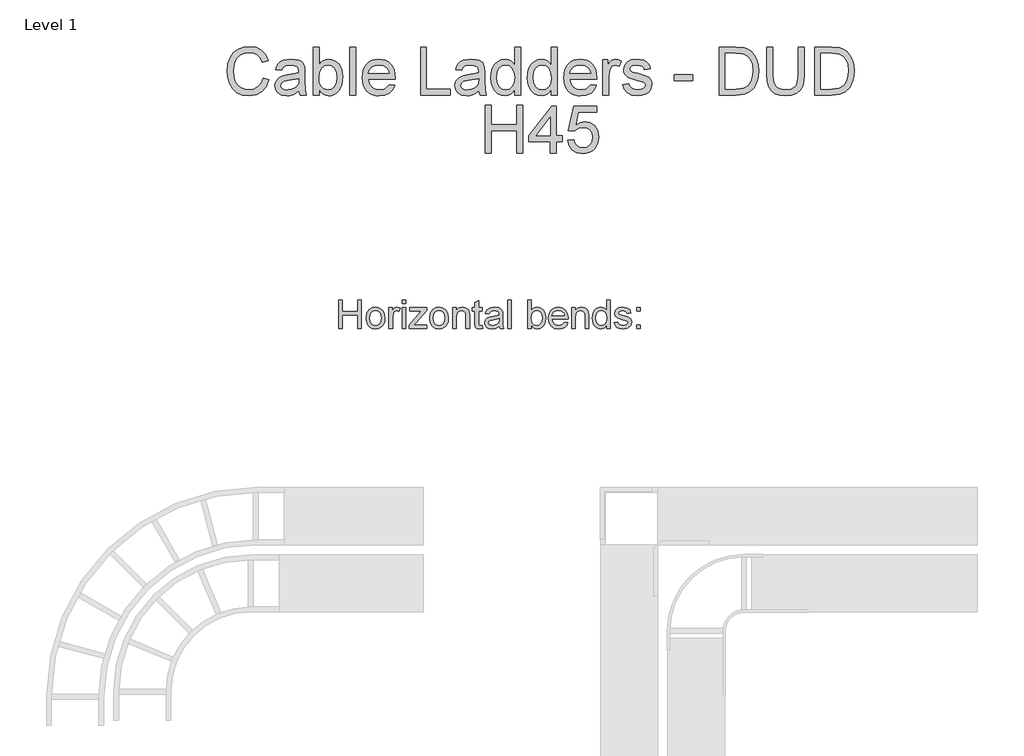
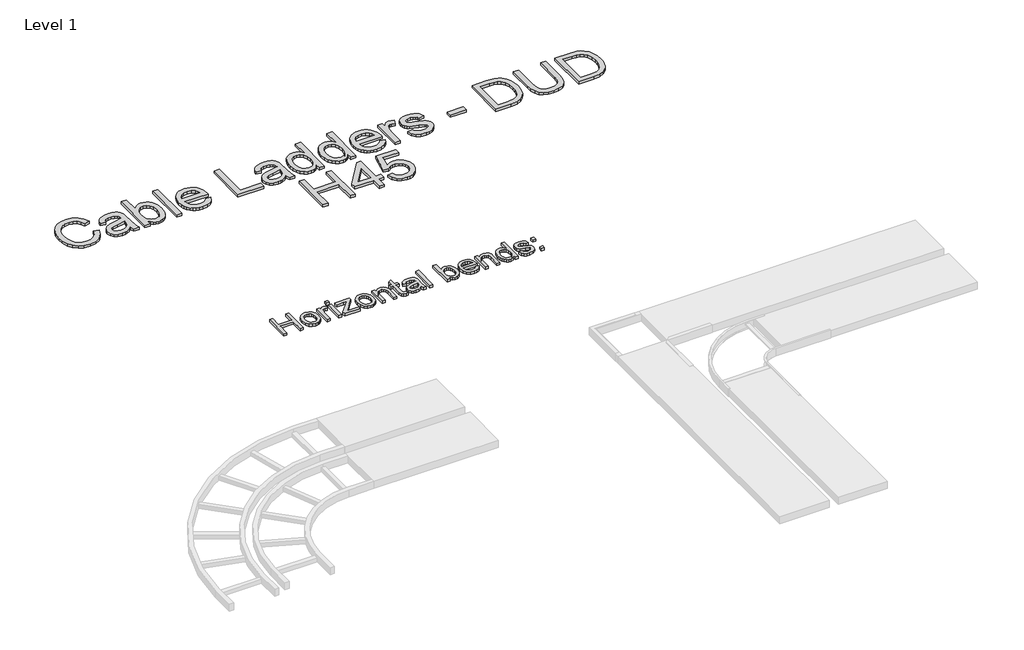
# One storey, part 52 of 106: 2 proxies.
"""IFC4 building model written with IfcOpenShell, lengths in millimetres."""

from ifc_helpers import new_model, si_unit, origin, origin_with_axes, place, context, project, spatial, polyline, outline, extrude, element, save

model = new_model("IFC4")

# Units and contexts
model_context = context("Model", 3, world=origin())
ifc_project = project(units=[si_unit("LENGTHUNIT", "METRE", prefix="MILLI")], contexts=[model_context])

# Site, building, storey
site = spatial("IfcSite", under=ifc_project)
building = spatial("IfcBuilding", under=site)
storey = spatial("IfcBuildingStorey", under=building, Name="Level 1", Elevation=0.0)

# Proxies
placement = place(None, origin())
element("IfcBuildingElementProxy", 1, Name="150mm Arial 2", ObjectType="150mm Arial 2", at=placement, inside=storey, context=model_context, shape_type="SweptSolid", body=[
    extrude(outline(polyline([(29365.8833156, 38674.2713912), (29365.8833156, 38824.9558564), (29384.7188737, 38824.9558564), (29384.7188737, 38763.7402924), (29464.7699959, 38763.7402924), (29464.7699959, 38824.9558564), (29483.605554, 38824.9558564), (29483.605554, 38674.2713912), (29464.7699959, 38674.2713912), (29464.7699959, 38744.9047343), (29384.7188737, 38744.9047343), (29384.7188737, 38674.2713912), (29365.8833156, 38674.2713912)])), origin_with_axes(), (0.0, 0.0, 1.0), 15.0),
    extrude(outline(polyline([(29509.5044465, 38729.6008433), (29513.5787396, 38756.281485), (29525.8016189, 38775.0342697), (29540.9031748, 38784.2221225), (29558.9845748, 38787.2847401), (29578.7720277, 38783.5553364), (29594.5771579, 38772.3671252), (29604.9376346, 38754.6030234), (29608.3911268, 38731.1459476), (29606.8644165, 38712.1172514), (29602.2842857, 38697.6318979), (29594.7840915, 38686.7839775), (29584.4971912, 38678.667581), (29572.2789104, 38673.6046051), (29558.9845748, 38671.9169464), (29538.9579987, 38675.6325546), (29523.1712626, 38686.779379), (29512.9211505, 38704.9159614), (29509.5044465, 38729.6008433)]), holes=[polyline([(29528.3400046, 38729.6376315), (29530.5197055, 38712.5908995), (29537.0588079, 38700.4461951), (29546.8996513, 38693.1759272), (29558.9845748, 38690.7525046), (29571.0143161, 38693.1897228), (29580.8367654, 38700.5013774), (29587.3758678, 38712.8070302), (29589.5555686, 38730.2262427), (29587.3620722, 38746.7763339), (29580.7815831, 38758.7554914), (29570.9453382, 38766.0257593), (29558.9845748, 38768.449182), (29546.8996513, 38766.0349564), (29537.0588079, 38758.7922796), (29530.5197055, 38746.6751664), (29528.3400046, 38729.6376315)])]), origin_with_axes(), (0.0, 0.0, 1.0), 15.0),
    extrude(outline(polyline([(29629.5811297, 38674.2713912), (29629.5811297, 38784.9302953), (29646.0622431, 38784.9302953), (29646.0622431, 38768.5595466), (29657.7608906, 38783.6427084), (29669.5331144, 38787.2847401), (29688.4422489, 38781.4722046), (29682.1514668, 38764.586421), (29668.907715, 38768.449182), (29658.2575312, 38764.7335738), (29651.4701084, 38754.4328779), (29648.4166879, 38732.4335346), (29648.4166879, 38674.2713912), (29629.5811297, 38674.2713912)])), origin_with_axes(), (0.0, 0.0, 1.0), 15.0),
    extrude(outline(polyline([(29700.2144728, 38806.1202983), (29700.2144728, 38824.9558564), (29719.0500309, 38824.9558564), (29719.0500309, 38806.1202983), (29700.2144728, 38806.1202983)])), origin_with_axes(), (0.0, 0.0, 1.0), 15.0),
    extrude(outline(polyline([(29700.2144728, 38674.2713912), (29700.2144728, 38784.9302953), (29719.0500309, 38784.9302953), (29719.0500309, 38674.2713912), (29700.2144728, 38674.2713912)])), origin_with_axes(), (0.0, 0.0, 1.0), 15.0),
    extrude(outline(polyline([(29735.5311443, 38674.2713912), (29735.5311443, 38692.0033034), (29800.5358929, 38766.0947372), (29781.2956645, 38766.0947372), (29740.2400339, 38766.0947372), (29740.2400339, 38784.9302953), (29827.3544903, 38784.9302953), (29827.3544903, 38768.9274285), (29769.7073817, 38703.186916), (29760.8782138, 38693.1069493), (29782.6568279, 38693.1069493), (29829.7089351, 38693.1069493), (29829.7089351, 38674.2713912), (29735.5311443, 38674.2713912)])), origin_with_axes(), (0.0, 0.0, 1.0), 15.0),
    extrude(outline(polyline([(29843.8356037, 38729.6008433), (29847.9098968, 38756.281485), (29860.1327761, 38775.0342697), (29875.234332, 38784.2221225), (29893.3157321, 38787.2847401), (29913.1031849, 38783.5553364), (29928.9083151, 38772.3671252), (29939.2687918, 38754.6030234), (29942.722284, 38731.1459476), (29941.1955737, 38712.1172514), (29936.6154429, 38697.6318979), (29929.1152487, 38686.7839775), (29918.8283484, 38678.667581), (29906.6100677, 38673.6046051), (29893.3157321, 38671.9169464), (29873.2891559, 38675.6325546), (29857.5024198, 38686.779379), (29847.2523077, 38704.9159614), (29843.8356037, 38729.6008433)]), holes=[polyline([(29862.6711619, 38729.6376315), (29864.8508627, 38712.5908995), (29871.3899651, 38700.4461951), (29881.2308085, 38693.1759272), (29893.3157321, 38690.7525046), (29905.3454733, 38693.1897228), (29915.1679226, 38700.5013774), (29921.707025, 38712.8070302), (29923.8867259, 38730.2262427), (29921.6932295, 38746.7763339), (29915.1127403, 38758.7554914), (29905.2764954, 38766.0257593), (29893.3157321, 38768.449182), (29881.2308085, 38766.0349564), (29871.3899651, 38758.7922796), (29864.8508627, 38746.6751664), (29862.6711619, 38729.6376315)])]), origin_with_axes(), (0.0, 0.0, 1.0), 15.0),
    extrude(outline(polyline([(29963.9122869, 38674.2713912), (29963.9122869, 38784.9302953), (29982.7478451, 38784.9302953), (29982.7478451, 38769.4792515), (29997.1504252, 38782.833368), (30016.8137178, 38787.2847401), (30034.6008123, 38783.6978907), (30046.7409182, 38774.2801116), (30052.3879068, 38760.4293545), (30053.3811882, 38742.2191957), (30053.3811882, 38674.2713912), (30034.54563, 38674.2713912), (30034.54563, 38739.6808099), (30032.3751262, 38756.3458643), (30024.7047866, 38765.1566381), (30011.7737345, 38768.449182), (30000.7418732, 38766.6005749), (29991.3378897, 38761.0547538), (29984.8953562, 38750.3401907), (29982.7478451, 38732.9853576), (29982.7478451, 38674.2713912), (29963.9122869, 38674.2713912)])), origin_with_axes(), (0.0, 0.0, 1.0), 15.0),
    extrude(outline(polyline([(30119.3056417, 38689.9799524), (30121.6600865, 38673.7195682), (30107.5702061, 38671.9169464), (30091.7880685, 38675.0439434), (30083.9153938, 38683.2477119), (30081.6345254, 38704.6216558), (30081.6345254, 38766.0947372), (30067.5078568, 38766.0947372), (30067.5078568, 38784.9302953), (30081.6345254, 38784.9302953), (30081.6345254, 38811.8224692), (30100.4700835, 38822.8957172), (30100.4700835, 38784.9302953), (30119.3056417, 38784.9302953), (30119.3056417, 38766.0947372), (30100.4700835, 38766.0947372), (30100.4700835, 38705.1734788), (30101.4633649, 38695.4613941), (30104.6823324, 38692.0216975), (30111.1018732, 38690.7525046), (30119.3056417, 38689.9799524)])), origin_with_axes(), (0.0, 0.0, 1.0), 15.0),
    extrude(outline(polyline([(30208.7745429, 38688.3980598), (30190.5092019, 38675.6325546), (30170.3308744, 38671.9169464), (30154.5901236, 38674.1518295), (30142.9788481, 38680.8564789), (30135.8189448, 38691.0376131), (30133.4323103, 38703.7019508), (30137.0375539, 38718.6011716), (30146.5105152, 38729.4169023), (30159.6990848, 38735.5973198), (30175.9962572, 38738.4300111), (30208.6641783, 38744.9047343), (30208.7745429, 38749.098589), (30207.4777589, 38757.5046926), (30203.5874068, 38763.0045284), (30194.8869976, 38767.0880186), (30182.7652859, 38768.449182), (30163.7089985, 38764.8255443), (30154.6223132, 38751.9680686), (30135.7867551, 38754.3225133), (30143.9353413, 38772.7166131), (30160.3428783, 38783.4955556), (30185.193307, 38787.2847401), (30208.0203848, 38783.9370139), (30220.9146488, 38775.5309104), (30226.6903961, 38762.747011), (30227.6101011, 38746.2658976), (30227.6101011, 38722.8318146), (30228.5665943, 38690.1087111), (30232.3189906, 38674.2713912), (30213.4834325, 38674.2713912), (30208.7745429, 38688.3980598)]), holes=[polyline([(30208.7745429, 38726.0691761), (30178.3874901, 38720.2934288), (30162.1822882, 38717.2400082), (30154.8430424, 38712.2736013), (30152.2678685, 38705.026326), (30157.8780689, 38694.8359947), (30174.3407882, 38690.7525046), (30193.3970755, 38695.259059), (30205.6843342, 38706.1667602), (30208.6641783, 38720.7348872), (30208.7745429, 38726.0691761)])]), origin_with_axes(), (0.0, 0.0, 1.0), 15.0),
    extrude(outline(polyline([(30253.5089935, 38674.2713912), (30253.5089935, 38824.9558564), (30272.3445517, 38824.9558564), (30272.3445517, 38674.2713912), (30253.5089935, 38674.2713912)])), origin_with_axes(), (0.0, 0.0, 1.0), 15.0),
    extrude(outline(polyline([(30378.2945663, 38674.2713912), (30359.4590082, 38674.2713912), (30359.4590082, 38824.9558564), (30378.2945663, 38824.9558564), (30378.2945663, 38769.0745813), (30391.4831358, 38782.7322004), (30407.8722787, 38787.2847401), (30426.7446251, 38783.1828559), (30441.3863285, 38771.6497553), (30450.3810433, 38753.715508), (30453.6367989, 38731.2563122), (30450.2660801, 38706.1115779), (30440.1539238, 38687.4047784), (30425.3144838, 38675.7889044), (30407.7619141, 38671.9169464), (30391.0140863, 38676.9109445), (30378.2945663, 38691.8929388), (30378.2945663, 38674.2713912)]), holes=[polyline([(30378.2945663, 38730.3733955), (30379.5821533, 38714.6648343), (30383.4449142, 38704.0330446), (30393.3133488, 38694.0726396), (30406.1432333, 38690.7525046), (30417.0141463, 38693.1989198), (30426.3031667, 38700.5381656), (30432.6767222, 38712.7242567), (30434.8012408, 38729.7112079), (30432.7640942, 38746.9464793), (30426.6526546, 38758.9946147), (30417.6533413, 38766.0855401), (30406.9525737, 38768.449182), (30396.0816608, 38766.0027667), (30386.7926404, 38758.6635209), (30380.4190848, 38746.698159), (30378.2945663, 38730.3733955)])]), origin_with_axes(), (0.0, 0.0, 1.0), 15.0),
    extrude(outline(polyline([(30552.30275, 38707.233618), (30570.7704262, 38704.8791732), (30564.1163606, 38690.9640367), (30553.4983665, 38680.5621733), (30539.1555672, 38674.0782531), (30521.327086, 38671.9169464), (30499.2265752, 38675.6463501), (30482.2212299, 38686.8345613), (30471.3779081, 38704.755013), (30467.7634675, 38728.6811383), (30471.4146963, 38753.4120054), (30482.3683827, 38771.9072727), (30499.1438017, 38783.4403733), (30520.2602282, 38787.2847401), (30540.7190657, 38783.4495703), (30557.0668219, 38771.9440609), (30567.7859835, 38753.4855818), (30571.3590374, 38728.7915029), (30571.2486728, 38723.7147313), (30486.5990257, 38723.7147313), (30489.8593799, 38709.6156539), (30497.4331504, 38699.2505787), (30508.3638442, 38692.8770231), (30521.694968, 38690.7525046), (30540.1626442, 38694.6888419), (30552.30275, 38707.233618)]), holes=[polyline([(30486.5990257, 38742.5502895), (30552.5234792, 38742.5502895), (30549.9758964, 38752.5014975), (30544.9818983, 38759.6200141), (30534.0006208, 38766.24189), (30520.1866518, 38768.449182), (30507.4901245, 38766.6879469), (30496.991692, 38761.4042417), (30489.693833, 38753.1682836), (30486.5990257, 38742.5502895)])]), origin_with_axes(), (0.0, 0.0, 1.0), 15.0),
    extrude(outline(polyline([(30590.1945955, 38674.2713912), (30590.1945955, 38784.9302953), (30609.0301537, 38784.9302953), (30609.0301537, 38769.4792515), (30623.4327338, 38782.833368), (30643.0960264, 38787.2847401), (30660.8831209, 38783.6978907), (30673.0232267, 38774.2801116), (30678.6702154, 38760.4293545), (30679.6634968, 38742.2191957), (30679.6634968, 38674.2713912), (30660.8279386, 38674.2713912), (30660.8279386, 38739.6808099), (30658.6574348, 38756.3458643), (30650.9870952, 38765.1566381), (30638.0560431, 38768.449182), (30627.0241818, 38766.6005749), (30617.6201983, 38761.0547538), (30611.1776648, 38750.3401907), (30609.0301537, 38732.9853576), (30609.0301537, 38674.2713912), (30590.1945955, 38674.2713912)])), origin_with_axes(), (0.0, 0.0, 1.0), 15.0),
    extrude(outline(polyline([(30773.8412875, 38674.2713912), (30773.8412875, 38692.0400916), (30761.3792849, 38676.9477327), (30744.1532105, 38671.9169464), (30731.9763165, 38673.7379623), (30720.829492, 38679.2010099), (30711.3933188, 38687.9244117), (30704.3483786, 38699.5264902), (30699.9613858, 38713.5381956), (30698.4990549, 38729.4904787), (30703.8885261, 38759.4728613), (30710.6207666, 38771.3646468), (30720.0385457, 38780.1110412), (30731.429092, 38785.4913154), (30744.0796341, 38787.2847401), (30761.4436643, 38782.1527863), (30773.8412875, 38768.8170639), (30773.8412875, 38824.9558564), (30792.6768457, 38824.9558564), (30792.6768457, 38674.2713912), (30773.8412875, 38674.2713912)]), holes=[polyline([(30717.3346131, 38729.5640551), (30719.4591316, 38712.5265202), (30725.8326871, 38700.4094069), (30735.0941164, 38693.1667302), (30745.8822559, 38690.7525046), (30756.6657969, 38693.0563656), (30765.6927013, 38699.9679485), (30771.804141, 38711.6160122), (30773.8412875, 38728.1293153), (30771.7673528, 38746.1831242), (30765.5455485, 38758.7003091), (30756.2887178, 38766.0119637), (30745.1097037, 38768.449182), (30734.2111996, 38766.1085328), (30725.2808642, 38759.0865852), (30719.3211758, 38747.0246543), (30717.3346131, 38729.5640551)])]), origin_with_axes(), (0.0, 0.0, 1.0), 15.0),
    extrude(outline(polyline([(30813.8668486, 38707.233618), (30832.7024067, 38709.5880627), (30835.6730539, 38701.531447), (30841.42121, 38695.6085469), (30861.3972024, 38690.7525046), (30880.6006425, 38695.2038767), (30886.8546364, 38705.6517254), (30885.2819409, 38710.4525854), (30880.5638543, 38714.1130113), (30861.1764732, 38719.4840884), (30832.8127713, 38728.6995324), (30820.4335422, 38739.4600807), (30816.2212934, 38754.6536071), (30819.6058077, 38768.6883052), (30828.8396458, 38779.4120654), (30840.8142047, 38784.9854776), (30857.0194066, 38787.2847401), (30879.9384549, 38783.5875261), (30894.5065819, 38773.5811358), (30900.9813051, 38756.6769581), (30882.1457469, 38754.3225133), (30875.0640185, 38764.7151797), (30858.4909346, 38768.449182), (30840.4647168, 38764.8807266), (30835.0568515, 38756.5665935), (30837.3009317, 38751.0851518), (30844.3274778, 38746.9280852), (30860.5510738, 38742.9181715), (30888.1974057, 38734.0522154), (30901.0364873, 38724.0090369), (30905.6901946, 38707.6382881), (30900.227147, 38689.6120704), (30884.4634035, 38676.5338655), (30861.139685, 38671.9169464), (30842.147777, 38674.1426325), (30828.2878228, 38680.8196907), (30819.0355906, 38691.8745447), (30813.8668486, 38707.233618)])), origin_with_axes(), (0.0, 0.0, 1.0), 15.0),
    extrude(outline(polyline([(30931.589087, 38766.0947372), (30931.589087, 38784.9302953), (30950.4246452, 38784.9302953), (30950.4246452, 38766.0947372), (30931.589087, 38766.0947372)])), origin_with_axes(), (0.0, 0.0, 1.0), 15.0),
    extrude(outline(polyline([(30931.589087, 38674.2713912), (30931.589087, 38693.1069493), (30950.4246452, 38693.1069493), (30950.4246452, 38674.2713912), (30931.589087, 38674.2713912)])), origin_with_axes(), (0.0, 0.0, 1.0), 15.0),
])
element("IfcBuildingElementProxy", 2, Name="250mm Arial 3", ObjectType="250mm Arial 3", at=placement, inside=storey, context=model_context, shape_type="SweptSolid", body=[
    extrude(outline(polyline([(28967.6684959, 39992.4106539), (28999.0610929, 39984.31725), (28984.5757393, 39947.7359841), (28961.8436977, 39921.01089), (28931.9839424, 39904.6631338), (28896.1154479, 39899.2138818), (28859.7027946, 39903.3372258), (28830.7857369, 39915.7072579), (28808.6208467, 39935.8947824), (28792.4646957, 39963.4706036), (28782.6008597, 39995.8902044), (28779.3129144, 40030.6090677), (28783.0300554, 40067.2286547), (28794.1814784, 40098.8511778), (28812.1847035, 40124.472626), (28836.457251, 40143.0889877), (28865.2440171, 40154.4243517), (28896.7898982, 40158.2028064), (28931.2098574, 40153.3130415), (28959.6670625, 40138.643747), (28981.2724656, 40115.0992993), (28995.1370182, 40083.584075), (28963.7444213, 40076.1038078), (28952.8612456, 40098.9967978), (28937.9926817, 40114.7007605), (28918.9547884, 40123.7828472), (28895.5636249, 40126.8102095), (28868.6009403, 40123.4532863), (28846.4513785, 40113.3825166), (28829.6437699, 40097.6555613), (28818.7069447, 40077.3300811), (28812.7058697, 40054.3527848), (28810.7055113, 40030.6703814), (28813.0737517, 40001.6690174), (28820.1784727, 39976.5917281), (28832.2879217, 39956.3965394), (28849.670346, 39942.0414774), (28870.5093282, 39933.4652284), (28892.9884509, 39930.6064787), (28919.1923789, 39934.4998965), (28941.0277081, 39946.1801498), (28957.51342, 39965.5246114), (28967.6684959, 39992.4106539)])), origin_with_axes(), (0.0, 0.0, 1.0), 15.0),
    extrude(outline(polyline([(29156.0240775, 39926.6824041), (29141.025222, 39913.8218627), (29125.5818424, 39905.406562), (29109.3413851, 39900.7620518), (29091.9512966, 39899.2138818), (29065.7167119, 39902.938687), (29046.3645861, 39914.1131026), (29034.4314139, 39931.0816596), (29030.4536898, 39952.1888891), (29031.9558746, 39965.2027147), (29036.462429, 39977.0209238), (29052.250698, 39995.0471415), (29074.2316472, 40005.3478374), (29101.3936012, 40010.0689897), (29155.8401365, 40020.8601949), (29156.0240775, 40027.8499528), (29153.8627708, 40041.8601254), (29147.3788506, 40051.0265185), (29132.8781686, 40057.8323354), (29112.6753157, 40060.100941), (29093.9746476, 40058.591092), (29080.9148368, 40054.0615449), (29072.0090268, 40045.6845653), (29065.7703613, 40032.6324187), (29034.3777644, 40036.5564933), (29039.8270165, 40053.7243198), (29047.9587414, 40067.2133262), (29059.5316958, 40077.5293505), (29075.3046364, 40085.1782303), (29094.5954485, 40089.914711), (29116.7220177, 40091.4935379), (29137.9442103, 40090.098652), (29154.7671473, 40085.9139943), (29167.4514119, 40079.6216794), (29176.2575872, 40071.9038217), (29185.8838327, 40050.5973228), (29187.4166744, 40023.1288005), (29187.4166744, 39984.0719953), (29189.0108297, 39929.5334895), (29195.2648236, 39903.1379564), (29163.8722267, 39903.1379564), (29156.0240775, 39926.6824041)]), holes=[polyline([(29156.0240775, 39989.4675979), (29105.3789895, 39979.8413524), (29078.3703197, 39974.7523181), (29066.1382433, 39966.4749732), (29061.8462867, 39954.3961811), (29064.1838702, 39945.0611754), (29071.1966208, 39937.4122956), (29082.7312541, 39932.3079329), (29098.6344862, 39930.6064787), (29115.4957443, 39932.4842097), (29130.3949651, 39938.1174028), (29142.4737573, 39946.4177403), (29150.8737295, 39956.2969047), (29154.5985347, 39966.4749732), (29155.8401365, 39980.5771164), (29156.0240775, 39989.4675979)])]), origin_with_axes(), (0.0, 0.0, 1.0), 15.0),
    extrude(outline(polyline([(29261.9740921, 39903.1379564), (29230.5814952, 39903.1379564), (29230.5814952, 40154.2787318), (29261.9740921, 40154.2787318), (29261.9740921, 40061.1432733), (29272.2977806, 40074.4215141), (29283.9550413, 40083.9059718), (29296.9458743, 40089.5966464), (29311.2702794, 40091.4935379), (29327.4417588, 40089.7844195), (29342.72419, 40084.6570642), (29356.2438533, 40076.4333687), (29367.127029, 40065.4352299), (29382.1182203, 40035.5448178), (29387.5444798, 39998.1128248), (29381.9266151, 39956.2049342), (29374.9042843, 39939.2746982), (29365.0730212, 39925.0269351), (29353.2720566, 39913.7337243), (29340.3406213, 39905.6671451), (29326.2787152, 39900.8271976), (29311.0863384, 39899.2138818), (29296.2905844, 39901.2947143), (29283.1732921, 39907.5372119), (29271.7344613, 39917.9413746), (29261.9740921, 39932.5072023), (29261.9740921, 39903.1379564)]), holes=[polyline([(29261.9740921, 39996.6412968), (29264.1200704, 39970.4603615), (29270.5580053, 39952.7407121), (29287.0053962, 39936.140037), (29308.3885371, 39930.6064787), (29326.5067254, 39934.6838375), (29341.988426, 39946.9159138), (29352.6110186, 39967.2260656), (29356.1518828, 39995.5376509), (29352.7566386, 40024.2631033), (29342.5709059, 40044.3433289), (29327.5720503, 40056.161538), (29309.7374378, 40060.100941), (29291.6192495, 40056.0235822), (29276.1375489, 40043.7915059), (29265.5149563, 40023.8492361), (29261.9740921, 39996.6412968)])]), origin_with_axes(), (0.0, 0.0, 1.0), 15.0),
    extrude(outline(polyline([(29422.8611513, 39903.1379564), (29422.8611513, 40154.2787318), (29454.2537482, 40154.2787318), (29454.2537482, 39903.1379564), (29422.8611513, 39903.1379564)])), origin_with_axes(), (0.0, 0.0, 1.0), 15.0),
    extrude(outline(polyline([(29630.4692239, 39958.075001), (29661.2486842, 39954.1509264), (29650.1585749, 39930.9590323), (29632.4619181, 39913.6225933), (29608.5572526, 39902.8160597), (29578.8431173, 39899.2138818), (29559.364532, 39900.7678), (29542.0089325, 39905.4295547), (29526.7763186, 39913.1991458), (29513.6666905, 39924.0765733), (29503.124572, 39937.759101), (29495.5944874, 39953.9439928), (29491.0764367, 39972.6312485), (29489.5704198, 39993.8208682), (29491.0917651, 40015.7290074), (29495.6558011, 40035.0389801), (29503.2625278, 40051.7507861), (29513.9119451, 40065.8644256), (29526.9870844, 40077.0771622), (29541.8709767, 40085.0862598), (29558.5636223, 40089.8917184), (29577.065021, 40091.4935379), (29594.9705274, 40089.8955505), (29611.1630834, 40085.1015883), (29625.6426888, 40077.1116512), (29638.4093436, 40065.9257393), (29648.8307508, 40051.8427566), (29656.274613, 40035.1616074), (29660.7409304, 40015.8822916), (29662.2297028, 39994.0048092), (29662.0457618, 39985.5435233), (29520.9630167, 39985.5435233), (29526.3969403, 39962.0450609), (29539.0198913, 39944.7699355), (29557.2377143, 39934.1473429), (29579.4562539, 39930.6064787), (29596.1642279, 39932.2466193), (29610.2357142, 39937.1670409), (29621.6707129, 39945.6743121), (29630.4692239, 39958.075001)]), holes=[polyline([(29520.9630167, 40016.9361202), (29630.8371059, 40016.9361202), (29626.5911346, 40033.5214669), (29618.2678044, 40045.3856612), (29599.9656752, 40056.4221211), (29576.9423936, 40060.100941), (29555.7815147, 40057.1655493), (29538.2841273, 40048.359374), (29526.1210288, 40034.632777), (29520.9630167, 40016.9361202)])]), origin_with_axes(), (0.0, 0.0, 1.0), 15.0),
    extrude(outline(polyline([(29795.6482398, 39903.1379564), (29795.6482398, 40154.2787318), (29827.0408367, 40154.2787318), (29827.0408367, 39934.5305533), (29952.6112244, 39934.5305533), (29952.6112244, 39903.1379564), (29795.6482398, 39903.1379564)])), origin_with_axes(), (0.0, 0.0, 1.0), 15.0),
    extrude(outline(polyline([(30101.7260597, 39926.6824041), (30086.7272042, 39913.8218627), (30071.2838246, 39905.406562), (30055.0433674, 39900.7620518), (30037.6532789, 39899.2138818), (30011.4186941, 39902.938687), (29992.0665683, 39914.1131026), (29980.1333961, 39931.0816596), (29976.1556721, 39952.1888891), (29977.6578569, 39965.2027147), (29982.1644113, 39977.0209238), (29997.9526803, 39995.0471415), (30019.9336295, 40005.3478374), (30047.0955835, 40010.0689897), (30101.5421187, 40020.8601949), (30101.7260597, 40027.8499528), (30099.564753, 40041.8601254), (30093.0808329, 40051.0265185), (30078.5801509, 40057.8323354), (30058.377298, 40060.100941), (30039.6766299, 40058.591092), (30026.6168191, 40054.0615449), (30017.7110091, 40045.6845653), (30011.4723436, 40032.6324187), (29980.0797467, 40036.5564933), (29985.5289987, 40053.7243198), (29993.6607237, 40067.2133262), (30005.2336781, 40077.5293505), (30021.0066186, 40085.1782303), (30040.2974308, 40089.914711), (30062.4239999, 40091.4935379), (30083.6461925, 40090.098652), (30100.4691296, 40085.9139943), (30113.1533942, 40079.6216794), (30121.9595695, 40071.9038217), (30131.585815, 40050.5973228), (30133.1186567, 40023.1288005), (30133.1186567, 39984.0719953), (30134.712812, 39929.5334895), (30140.9668059, 39903.1379564), (30109.574209, 39903.1379564), (30101.7260597, 39926.6824041)]), holes=[polyline([(30101.7260597, 39989.4675979), (30051.0809717, 39979.8413524), (30024.0723019, 39974.7523181), (30011.8402256, 39966.4749732), (30007.548269, 39954.3961811), (30009.8858525, 39945.0611754), (30016.898603, 39937.4122956), (30028.4332364, 39932.3079329), (30044.3364685, 39930.6064787), (30061.1977266, 39932.4842097), (30076.0969474, 39938.1174028), (30088.1757396, 39946.4177403), (30096.5757118, 39956.2969047), (30100.300517, 39966.4749732), (30101.5421187, 39980.5771164), (30101.7260597, 39989.4675979)])]), origin_with_axes(), (0.0, 0.0, 1.0), 15.0),
    extrude(outline(polyline([(30290.0816413, 39903.1379564), (30290.0816413, 39932.752457), (30280.6891541, 39918.0793303), (30269.311637, 39907.5985256), (30255.9490899, 39901.3100427), (30240.6015129, 39899.2138818), (30220.3066895, 39902.2489082), (30201.7286488, 39911.3539876), (30186.0016935, 39925.8929906), (30174.2601265, 39945.229788), (30166.9484718, 39968.5826305), (30164.5112536, 39995.1697689), (30166.7568666, 40021.4273463), (30173.4937056, 40045.1404065), (30184.7141065, 40064.960049), (30200.4104049, 40079.5373731), (30219.3946487, 40088.5044967), (30240.4788856, 40091.4935379), (30255.8379589, 40089.3552238), (30269.4189359, 40082.9402815), (30280.9305766, 40073.1071024), (30290.0816413, 40060.7140777), (30290.0816413, 40154.2787318), (30321.4742382, 40154.2787318), (30321.4742382, 39903.1379564), (30290.0816413, 39903.1379564)]), holes=[polyline([(30195.9038505, 39995.2923962), (30199.4447147, 39966.8965047), (30210.0673073, 39946.701316), (30225.5030227, 39934.630188), (30243.4832552, 39930.6064787), (30261.4558235, 39934.446247), (30276.5006643, 39945.965552), (30286.686397, 39965.3789915), (30290.0816413, 39992.9011632), (30286.6250834, 40022.9908447), (30276.2554096, 40043.8528196), (30260.8273584, 40056.0389106), (30242.1956682, 40060.100941), (30224.0314947, 40056.199859), (30209.1476023, 40044.496613), (30199.2147885, 40024.3933948), (30195.9038505, 39995.2923962)])]), origin_with_axes(), (0.0, 0.0, 1.0), 15.0),
    extrude(outline(polyline([(30482.3612974, 39903.1379564), (30482.3612974, 39932.752457), (30472.9688102, 39918.0793303), (30461.5912931, 39907.5985256), (30448.2287461, 39901.3100427), (30432.8811691, 39899.2138818), (30412.5863457, 39902.2489082), (30394.0083049, 39911.3539876), (30378.2813496, 39925.8929906), (30366.5397826, 39945.229788), (30359.2281279, 39968.5826305), (30356.7909097, 39995.1697689), (30359.0365227, 40021.4273463), (30365.7733618, 40045.1404065), (30376.9937626, 40064.960049), (30392.6900611, 40079.5373731), (30411.6743049, 40088.5044967), (30432.7585417, 40091.4935379), (30448.117615, 40089.3552238), (30461.698592, 40082.9402815), (30473.2102328, 40073.1071024), (30482.3612974, 40060.7140777), (30482.3612974, 40154.2787318), (30513.7538943, 40154.2787318), (30513.7538943, 39903.1379564), (30482.3612974, 39903.1379564)]), holes=[polyline([(30388.1835067, 39995.2923962), (30391.7243709, 39966.8965047), (30402.3469635, 39946.701316), (30417.7826788, 39934.630188), (30435.7629114, 39930.6064787), (30453.7354797, 39934.446247), (30468.7803204, 39945.965552), (30478.9660532, 39965.3789915), (30482.3612974, 39992.9011632), (30478.9047395, 40022.9908447), (30468.5350658, 40043.8528196), (30453.1070146, 40056.0389106), (30434.4753244, 40060.100941), (30416.3111509, 40056.199859), (30401.4272585, 40044.496613), (30391.4944446, 40024.3933948), (30388.1835067, 39995.2923962)])]), origin_with_axes(), (0.0, 0.0, 1.0), 15.0),
    extrude(outline(polyline([(30689.96937, 39958.075001), (30720.7488303, 39954.1509264), (30709.658721, 39930.9590323), (30691.9620642, 39913.6225933), (30668.0573987, 39902.8160597), (30638.3432634, 39899.2138818), (30618.8646781, 39900.7678), (30601.5090786, 39905.4295547), (30586.2764647, 39913.1991458), (30573.1668366, 39924.0765733), (30562.6247181, 39937.759101), (30555.0946335, 39953.9439928), (30550.5765828, 39972.6312485), (30549.0705659, 39993.8208682), (30550.5919112, 40015.7290074), (30555.1559472, 40035.0389801), (30562.7626739, 40051.7507861), (30573.4120912, 40065.8644256), (30586.4872305, 40077.0771622), (30601.3711229, 40085.0862598), (30618.0637684, 40089.8917184), (30636.5651671, 40091.4935379), (30654.4706735, 40089.8955505), (30670.6632295, 40085.1015883), (30685.1428349, 40077.1116512), (30697.9094898, 40065.9257393), (30708.3308969, 40051.8427566), (30715.7747591, 40035.1616074), (30720.2410765, 40015.8822916), (30721.7298489, 39994.0048092), (30721.5459079, 39985.5435233), (30580.4631628, 39985.5435233), (30585.8970864, 39962.0450609), (30598.5200374, 39944.7699355), (30616.7378604, 39934.1473429), (30638.9564, 39930.6064787), (30655.664374, 39932.2466193), (30669.7358603, 39937.1670409), (30681.170859, 39945.6743121), (30689.96937, 39958.075001)]), holes=[polyline([(30580.4631628, 40016.9361202), (30690.337252, 40016.9361202), (30686.0912807, 40033.5214669), (30677.7679505, 40045.3856612), (30659.4658213, 40056.4221211), (30636.4425397, 40060.100941), (30615.2816608, 40057.1655493), (30597.7842734, 40048.359374), (30585.6211749, 40034.632777), (30580.4631628, 40016.9361202)])]), origin_with_axes(), (0.0, 0.0, 1.0), 15.0),
    extrude(outline(polyline([(30753.1224459, 39903.1379564), (30753.1224459, 40087.5694633), (30780.5909682, 40087.5694633), (30780.5909682, 40060.284882), (30790.7383799, 40076.1038078), (30800.0887139, 40085.423485), (30819.709087, 40091.4935379), (30835.3440718, 40089.0716481), (30851.2243112, 40081.8059787), (30840.7396744, 40053.6630061), (30818.6667547, 40060.100941), (30809.293428, 40058.5527709), (30800.9164484, 40053.9082608), (30789.6040771, 40036.7404343), (30784.5150428, 40000.0748621), (30784.5150428, 39903.1379564), (30753.1224459, 39903.1379564)])), origin_with_axes(), (0.0, 0.0, 1.0), 15.0),
    extrude(outline(polyline([(30859.0724605, 39958.075001), (30890.4650574, 39961.9990756), (30895.4161359, 39948.5713828), (30904.9963962, 39938.6998826), (30919.2671519, 39932.6298297), (30938.2897168, 39930.6064787), (30957.0823554, 39932.4612171), (30970.2954504, 39938.0254323), (30978.1129428, 39946.0881793), (30980.7187735, 39955.4385134), (30978.0976143, 39963.4399468), (30970.2341367, 39969.5406565), (30937.9218348, 39978.4924517), (30890.6489984, 39993.851525), (30878.6851693, 40001.5693827), (30870.0169498, 40011.7857723), (30864.7516388, 40023.8492361), (30862.9965351, 40037.1083163), (30868.6373924, 40060.4994798), (30884.0271225, 40078.3724134), (30903.9847207, 40087.6614338), (30930.9933905, 40091.4935379), (30951.4261697, 40089.9530321), (30969.1918044, 40085.3315145), (30983.4778885, 40078.0811735), (30993.472016, 40068.6541974), (31000.093892, 40056.3531432), (31004.2632212, 40040.4805679), (30972.8706243, 40036.5564933), (30968.9082287, 40046.4356577), (30961.0677436, 40053.8776039), (30949.2725272, 40058.5451067), (30933.4459372, 40060.100941), (30915.4197194, 40058.6140846), (30903.4022409, 40054.1535154), (30896.6424092, 40047.7155805), (30894.389132, 40040.2966269), (30898.1292656, 40031.1608907), (30909.8401758, 40024.2324465), (30936.8795025, 40017.5492569), (30982.9567224, 40002.7726634), (30995.127485, 39995.7062634), (31004.3551917, 39986.0340326), (31010.1723258, 39973.7253142), (31012.1113705, 39958.7494513), (31009.8351006, 39943.2677507), (31003.0062911, 39928.7057551), (30991.8855249, 39916.2054314), (30976.7333853, 39906.9087468), (30958.431256, 39901.137598), (30937.8605211, 39899.2138818), (30906.2073411, 39902.9233586), (30883.1074175, 39914.0517889), (30867.6870305, 39932.4765455), (30859.0724605, 39958.075001)])), origin_with_axes(), (0.0, 0.0, 1.0), 15.0),
    extrude(outline(polyline([(31129.8336089, 39977.6953741), (31129.8336089, 40009.087971), (31227.9354743, 40009.087971), (31227.9354743, 39977.6953741), (31129.8336089, 39977.6953741)])), origin_with_axes(), (0.0, 0.0, 1.0), 15.0),
    extrude(outline(polyline([(31365.2780858, 39903.1379564), (31365.2780858, 40154.2787318), (31451.9142957, 40154.2787318), (31496.7345855, 40150.6612255), (31516.7534974, 40143.686796), (31533.6454123, 40132.6963214), (31551.0125082, 40113.5664576), (31563.3825402, 40089.7767553), (31570.7861654, 40061.7870668), (31573.2540404, 40030.0572447), (31571.5832431, 40003.1022244), (31566.5708509, 39979.3814999), (31558.9372995, 39959.1863112), (31549.4030244, 39942.8078982), (31526.4717134, 39920.0298713), (31496.458674, 39907.429913), (31456.083625, 39903.1379564), (31365.2780858, 39903.1379564)]), holes=[polyline([(31396.6706828, 39934.5305533), (31452.220864, 39934.5305533), (31492.6265698, 39939.0677646), (31515.9257629, 39951.8823208), (31526.8319312, 39965.470962), (31535.0249698, 39983.0603198), (31540.1523251, 40004.7270365), (31541.8614435, 40030.5477541), (31538.5121845, 40064.7607796), (31528.4644075, 40090.0220099), (31513.6188362, 40107.3737774), (31495.8761941, 40117.8584142), (31477.8193195, 40121.6292047), (31451.3624727, 40122.8861348), (31396.6706828, 40122.8861348), (31396.6706828, 39934.5305533)])]), origin_with_axes(), (0.0, 0.0, 1.0), 15.0),
    extrude(outline(polyline([(31781.2299951, 40154.2787318), (31812.622592, 40154.2787318), (31812.622592, 40009.3945393), (31810.4919421, 39975.4650895), (31804.0999924, 39949.3378036), (31792.159156, 39929.180936), (31773.3818458, 39913.1627408), (31747.7220767, 39902.7010965), (31715.1338633, 39899.2138818), (31683.2584212, 39902.2489082), (31657.7749288, 39911.3539876), (31638.6757219, 39926.2148874), (31625.9531363, 39946.517375), (31618.80243, 39973.7483068), (31616.4188612, 40009.3945393), (31616.4188612, 40154.2787318), (31647.8114581, 40154.2787318), (31647.8114581, 40010.4981853), (31649.3596282, 39982.2862348), (31654.0041384, 39962.6428691), (31662.419439, 39949.0388995), (31675.2799804, 39938.9451373), (31692.0492681, 39932.6911433), (31712.1908073, 39930.6064787), (31744.1198988, 39934.7298227), (31765.3497556, 39947.0998548), (31772.2973604, 39957.2472665), (31777.2599352, 39971.1961255), (31781.2299951, 40010.4981853), (31781.2299951, 40154.2787318)])), origin_with_axes(), (0.0, 0.0, 1.0), 15.0),
    extrude(outline(polyline([(31867.5596366, 39903.1379564), (31867.5596366, 40154.2787318), (31954.1958465, 40154.2787318), (31999.0161362, 40150.6612255), (32019.0350481, 40143.686796), (32035.926963, 40132.6963214), (32053.2940589, 40113.5664576), (32065.664091, 40089.7767553), (32073.0677161, 40061.7870668), (32075.5355912, 40030.0572447), (32073.8647938, 40003.1022244), (32068.8524016, 39979.3814999), (32061.2188502, 39959.1863112), (32051.6845752, 39942.8078982), (32028.7532641, 39920.0298713), (31998.7402247, 39907.429913), (31958.3651757, 39903.1379564), (31867.5596366, 39903.1379564)]), holes=[polyline([(31898.9522335, 39934.5305533), (31954.5024148, 39934.5305533), (31994.9081206, 39939.0677646), (32018.2073136, 39951.8823208), (32029.1134819, 39965.470962), (32037.3065205, 39983.0603198), (32042.4338758, 40004.7270365), (32044.1429943, 40030.5477541), (32040.7937353, 40064.7607796), (32030.7459583, 40090.0220099), (32015.9003869, 40107.3737774), (31998.1577449, 40117.8584142), (31980.1008703, 40121.6292047), (31953.6440235, 40122.8861348), (31898.9522335, 40122.8861348), (31898.9522335, 39934.5305533)])]), origin_with_axes(), (0.0, 0.0, 1.0), 15.0),
    extrude(outline(polyline([(30137.0427313, 39598.2009118), (30137.0427313, 39849.3416872), (30168.4353282, 39849.3416872), (30168.4353282, 39747.3157472), (30301.8538651, 39747.3157472), (30301.8538651, 39849.3416872), (30333.246462, 39849.3416872), (30333.246462, 39598.2009118), (30301.8538651, 39598.2009118), (30301.8538651, 39715.9231502), (30168.4353282, 39715.9231502), (30168.4353282, 39598.2009118), (30137.0427313, 39598.2009118)])), origin_with_axes(), (0.0, 0.0, 1.0), 15.0),
    extrude(outline(polyline([(30478.4372228, 39598.2009118), (30478.4372228, 39657.062031), (30364.639059, 39657.062031), (30364.639059, 39688.4546279), (30486.285372, 39845.4176125), (30509.8298197, 39845.4176125), (30509.8298197, 39688.4546279), (30541.2224166, 39688.4546279), (30541.2224166, 39657.062031), (30509.8298197, 39657.062031), (30509.8298197, 39598.2009118), (30478.4372228, 39598.2009118)]), holes=[polyline([(30478.4372228, 39688.4546279), (30478.4372228, 39785.4528473), (30403.2666685, 39688.4546279), (30478.4372228, 39688.4546279)])]), origin_with_axes(), (0.0, 0.0, 1.0), 15.0),
    extrude(outline(polyline([(30568.690939, 39664.9101802), (30600.0835359, 39668.8342549), (30605.8470205, 39649.9879668), (30615.9024617, 39636.4912961), (30630.2038742, 39628.3748996), (30648.7052729, 39625.6694341), (30671.2073883, 39629.4325603), (30688.0686464, 39640.7219391), (30698.5992685, 39658.2346549), (30702.1094759, 39680.6677924), (30698.8215305, 39701.7903503), (30688.9576945, 39717.9465012), (30672.4413258, 39728.2012118), (30649.1957822, 39731.6194487), (30633.9670005, 39730.2552196), (30621.6352894, 39726.1625324), (30604.0076105, 39711.9990756), (30572.6150136, 39715.9231502), (30600.0835359, 39845.4176125), (30721.7298489, 39845.4176125), (30721.7298489, 39814.0250156), (30625.4673935, 39814.0250156), (30612.0397007, 39744.8632005), (30634.465174, 39758.4748343), (30657.9636364, 39763.0120456), (30687.2945614, 39757.3865168), (30711.6437509, 39740.5099303), (30728.0374923, 39714.7888474), (30733.5020728, 39682.6298297), (30728.5816511, 39651.2372328), (30713.820386, 39624.3818471), (30700.7759036, 39611.2109053), (30685.5547861, 39601.8030897), (30668.1570334, 39596.1584003), (30648.5826456, 39594.2768372), (30617.7495359, 39599.1129526), (30593.1857485, 39613.6212987), (30576.347483, 39636.1157499), (30568.690939, 39664.9101802)])), origin_with_axes(), (0.0, 0.0, 1.0), 15.0),
])

save(model, "model.ifc")
